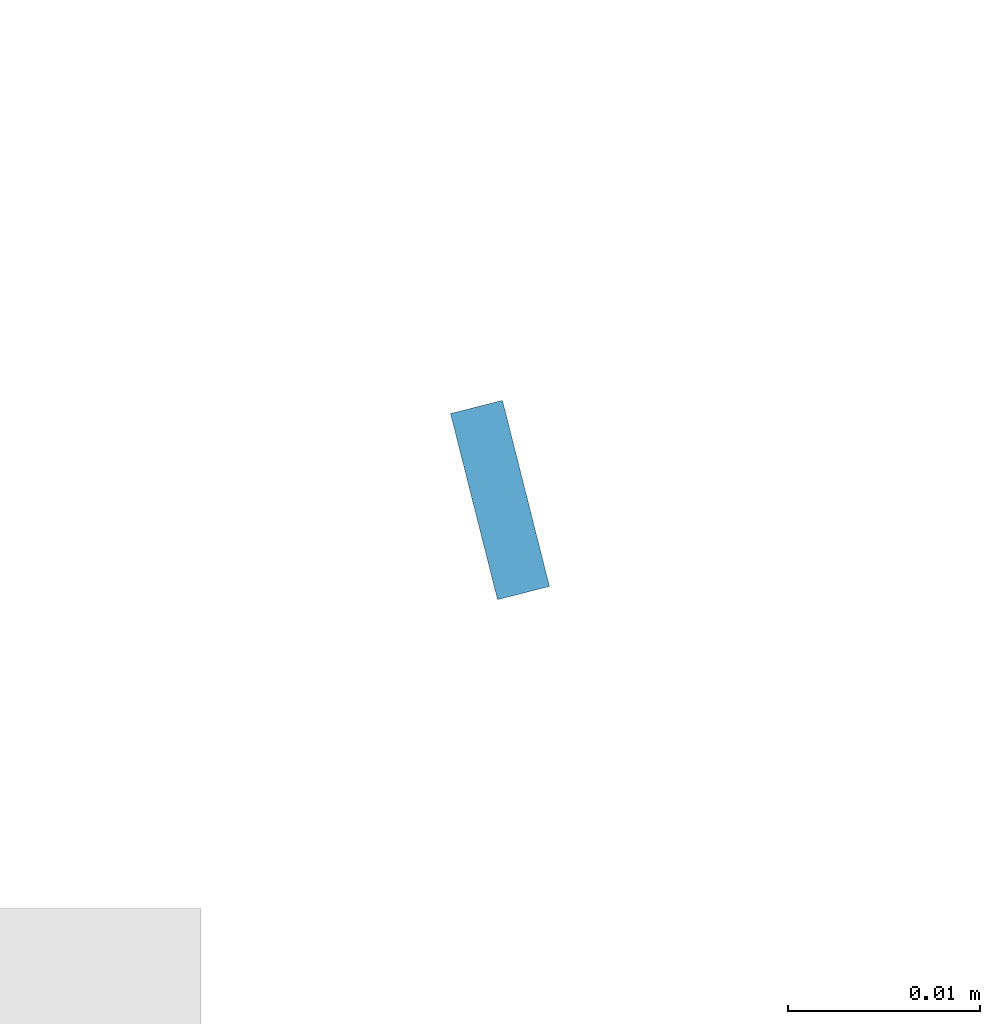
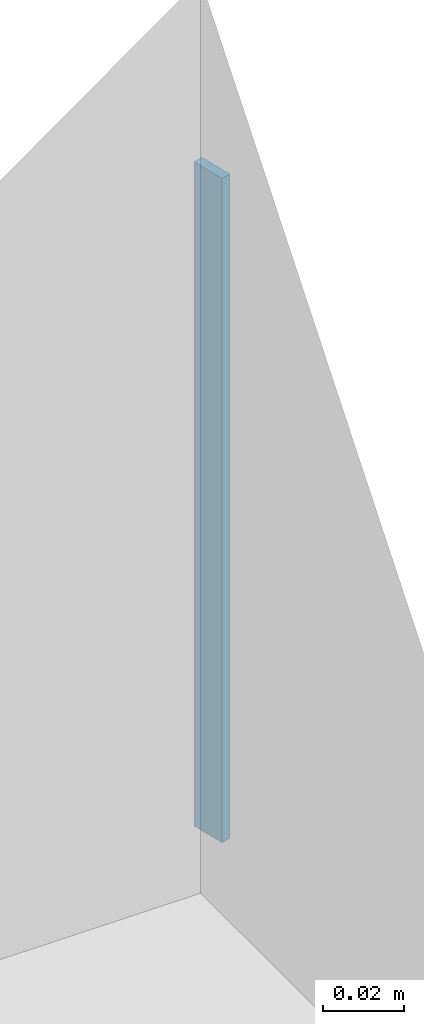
# One storey, part 3 of 3: 1 wall.
"""IFC2X3 building model written with IfcOpenShell, lengths in millimetres."""

from ifc_helpers import new_model, entity, si_unit, converted_unit, derived_unit, direction, frame, origin_with_axes, place, context, subcontext, project, spatial, faceted_brep, material, layer, layer_set, type_object, element, save


model = new_model("IFC2X3")

# Units and contexts
model_context = context("Model", 3, precision=0.01, world=frame((0.0, 4.29681676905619e-09, 0.0)), true_north=direction((4.01073788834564e-13, 1.0)))
plan_context = context("Plan", 3, precision=0.01, world=frame((0.0, 4.29681676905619e-09, 0.0)), true_north=direction((4.01073788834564e-13, 1.0)))
body_context = subcontext(model_context, "Body", "Model", "MODEL_VIEW")
ifc_project = project(units=[converted_unit("PLANEANGLEUNIT", "DEGREE", entity("IfcPositiveLengthMeasure", 0.0174532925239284), si_unit("PLANEANGLEUNIT", "RADIAN"), dimensions=[0, 0, 0, 0, 0, 0, 0]), si_unit("AREAUNIT", "SQUARE_METRE"), si_unit("LENGTHUNIT", "METRE", prefix="MILLI"), si_unit("MASSUNIT", "GRAM", prefix="KILO"), si_unit("POWERUNIT", "WATT"), si_unit("PRESSUREUNIT", "PASCAL", prefix="KILO"), si_unit("FORCEUNIT", "NEWTON", prefix="KILO"), si_unit("ELECTRICVOLTAGEUNIT", "VOLT"), si_unit("ELECTRICCURRENTUNIT", "AMPERE"), si_unit("THERMODYNAMICTEMPERATUREUNIT", "DEGREE_CELSIUS"), si_unit("TIMEUNIT", "SECOND"), si_unit("VOLUMEUNIT", "CUBIC_METRE"), derived_unit("LINEARVELOCITYUNIT", [(si_unit("LENGTHUNIT", "METRE"), 1), (si_unit("TIMEUNIT", "SECOND"), -1)]), derived_unit("VOLUMETRICFLOWRATEUNIT", [(si_unit("VOLUMEUNIT", "CUBIC_METRE"), 1), (si_unit("TIMEUNIT", "SECOND"), -1)]), derived_unit("THERMALTRANSMITTANCEUNIT", [(si_unit("POWERUNIT", "WATT"), 1), (si_unit("THERMODYNAMICTEMPERATUREUNIT", "KELVIN"), -1), (si_unit("AREAUNIT", "SQUARE_METRE"), -1)]), derived_unit("SOUNDPRESSUREUNIT", [(si_unit("PRESSUREUNIT", "PASCAL"), 1)])], contexts=[model_context, plan_context])

# Site, building, storey
site_placement = place(None, origin_with_axes())
site = spatial("IfcSite", under=ifc_project, at=site_placement, Name="ENGM", CompositionType="ELEMENT")
building_placement = place(site_placement, origin_with_axes())
building = spatial("IfcBuilding", under=site, at=building_placement, Name="TS", CompositionType="ELEMENT")
storey_placement = place(building_placement, frame((0.0, 0.0, 213700.0), z_axis=(0.0, 0.0, 1.0), x_axis=(1.0, 0.0, 0.0)))
storey = spatial("IfcBuildingStorey", under=building, at=storey_placement, Name="Nivå G - 2,0m", CompositionType="ELEMENT", Elevation=213700.0)

# Wall
ifc_material = material(Name="T2 Stål Galvanisert")
ifc_layer = layer(ifc_material, 10.0)
ifc_layer_set = layer_set([ifc_layer], Name="Basic Wall:B200 - Metallplate 10mm")
wall_type = type_object("IfcWallType", Name="Basic Wall:B200 - Metallplate 10mm", PredefinedType="STANDARD", material=ifc_layer_set)
wall_placement = place(storey_placement, frame((714557.199679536, 441990.754957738, 0.0), z_axis=(0.0, 0.0, 1.0), x_axis=(0.969468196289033, 0.245217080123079, 0.0)))
element("IfcWall", 1, at=wall_placement, inside=storey, type_object=wall_type, Name="Basic Wall:B200 - Metallplate 10mm", ObjectType="Basic Wall:B200 - Metallplate 10mm", context=body_context, shape_type="Brep", body=[
    faceted_brep([(2.79791903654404, -5.0, 200.0), (0.0, -5.0, 200.0), (0.0, -5.0, 0.0), (2.79791903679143, -5.0, 0.0), (0.0, 5.0, 200.0), (2.79791903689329, 5.0, 200.0), (2.79791903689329, 5.0, 0.0), (0.0, 5.0, 0.0)], [[[0, 1, 2, 3]], [[4, 5, 6, 7]], [[1, 0, 5, 4]], [[1, 4, 7, 2]], [[5, 0, 3, 6]], [[3, 2, 7, 6]]]),
])

save(model, "model.ifc")
